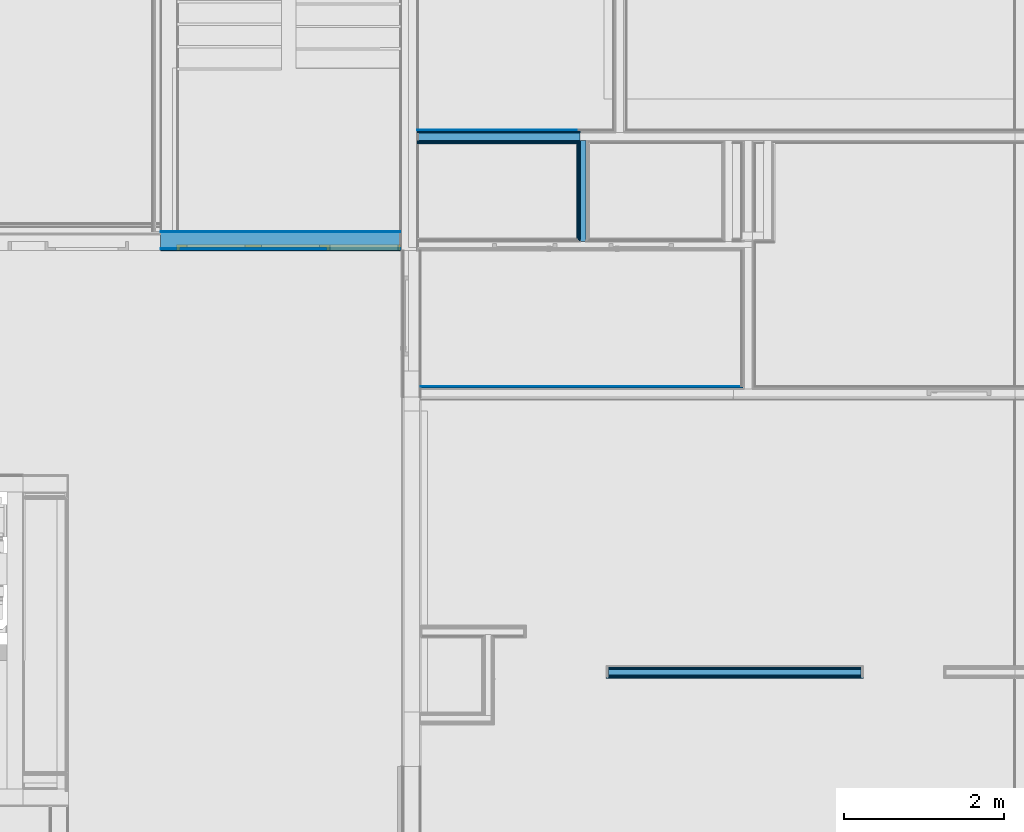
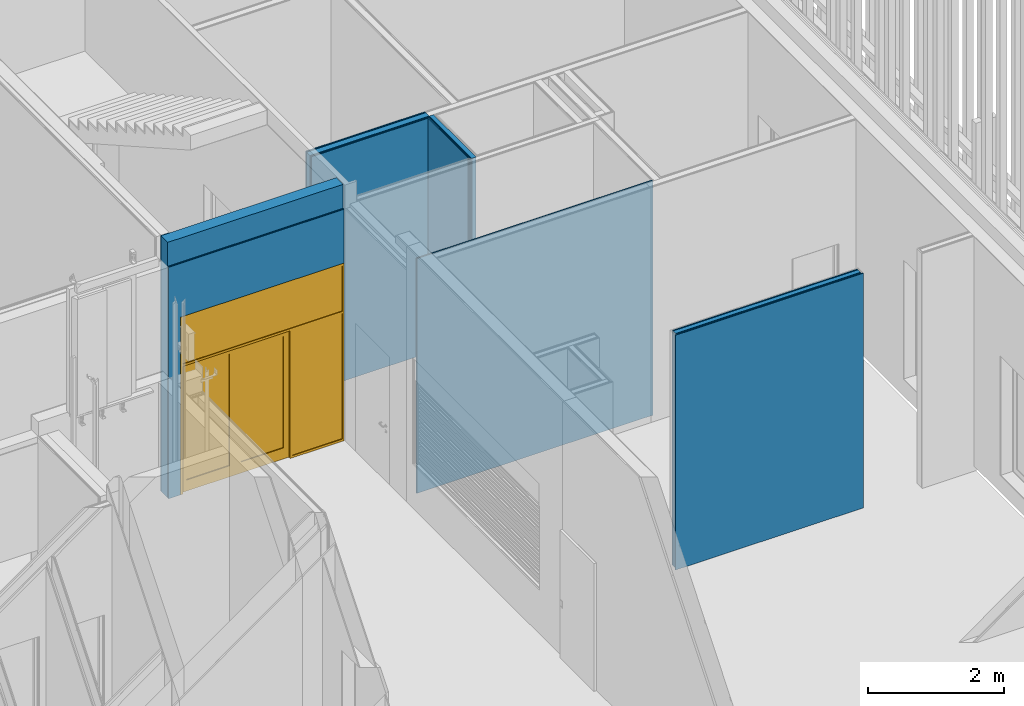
# One storey, part 189 of 260: 23 building element parts, 1 door, 3 openings, 5 elements without a shape of their own.
"""IFC2X3 building model written with IfcOpenShell, lengths in millimetres."""

from ifc_helpers import new_model, entity, si_unit, converted_unit, derived_unit, money_unit, direction, frame, origin_with_axes, place, context, subcontext, project, spatial, open_shell, faceted_brep, surface_model, material, type_object, element, fill, aggregate, save


model = new_model("IFC2X3")

# Units and contexts
model_context = context("Model", 3, precision=0.01, world=origin_with_axes(), true_north=direction((0.0, 1.0)))
body_context = subcontext(model_context, "Body", "Model", "MODEL_VIEW")
ifc_project = project(units=[si_unit("LENGTHUNIT", "METRE", prefix="MILLI"), si_unit("AREAUNIT", "SQUARE_METRE"), si_unit("VOLUMEUNIT", "CUBIC_METRE"), converted_unit("PLANEANGLEUNIT", "DEGREE", entity("IfcPlaneAngleMeasure", 0.0174532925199), si_unit("PLANEANGLEUNIT", "RADIAN"), dimensions=[0, 0, 0, 0, 0, 0, 0]), money_unit("EUR"), converted_unit("TIMEUNIT", "Year", entity("IfcTimeMeasure", 31556926.0), si_unit("TIMEUNIT", "SECOND"), dimensions=[0, 0, 1, 0, 0, 0, 0]), si_unit("MASSUNIT", "GRAM", prefix="KILO"), si_unit("THERMODYNAMICTEMPERATUREUNIT", "DEGREE_CELSIUS"), si_unit("LUMINOUSINTENSITYUNIT", "LUMEN"), si_unit("ENERGYUNIT", "JOULE", prefix="MEGA"), derived_unit("THERMALCONDUCTANCEUNIT", [(si_unit("POWERUNIT", "WATT"), 1), (si_unit("LENGTHUNIT", "METRE"), -1), (si_unit("THERMODYNAMICTEMPERATUREUNIT", "KELVIN"), -1)]), derived_unit("SPECIFICHEATCAPACITYUNIT", [(si_unit("ENERGYUNIT", "JOULE"), 1), (si_unit("MASSUNIT", "GRAM", prefix="KILO"), -1), (si_unit("THERMODYNAMICTEMPERATUREUNIT", "KELVIN"), -1)]), derived_unit("MASSDENSITYUNIT", [(si_unit("MASSUNIT", "GRAM", prefix="KILO"), 1), (si_unit("VOLUMEUNIT", "CUBIC_METRE"), -1)])], contexts=[model_context])

# Site, building, storey
site_placement = place(None, origin_with_axes())
site = spatial("IfcSite", under=ifc_project, at=site_placement, Name="Kolde pst 67a", CompositionType="ELEMENT")
building_placement = place(site_placement, origin_with_axes())
building = spatial("IfcBuilding", under=site, at=building_placement, Name="Riigigümnaasium", CompositionType="ELEMENT")
storey_placement = place(building_placement, origin_with_axes())
storey = spatial("IfcBuildingStorey", under=building, at=storey_placement, Name="1. korrus", CompositionType="ELEMENT", Elevation=0.0)

# Door
door_style = type_object("IfcDoorStyle", Name="Double Door with Sidelight, Transom 25", ConstructionType="NOTDEFINED", OperationType="USERDEFINED", ParameterTakesPrecedence=False, Sizeable=False)
wall_4_placement = place(storey_placement, frame((49590.0100555, 52820.0001843, 0.0), z_axis=(0.0, 0.0, 1.0), x_axis=(1.0, 0.0, 0.0)))
opening_1_placement = place(wall_4_placement, frame((1600.0, 0.0, 0.0), z_axis=(0.0, 0.0, 1.0), x_axis=(1.0, 0.0, 0.0)))
door_placement = place(opening_1_placement, frame((-1400.0, 0.0, 0.0), z_axis=(0.0, 0.0, 1.0), x_axis=(1.0, 0.0, 0.0)))
door = element("IfcDoor", 1, at=door_placement, inside=storey, type_object=door_style, Name="Kahepoolne siseuks", ObjectType="DOOR", OverallHeight=3200.0, OverallWidth=2800.0, context=body_context, shape_type="SurfaceModel", body=[
    faceted_brep([(2789.98406667, -240.0, 3160.0), (2789.98406667, -160.0, 3160.0), (2760.0, -160.0, 3160.0), (2760.0, -240.0, 3160.0), (2789.98406667, -160.0, 0.0), (2789.98406667, -240.0, 0.0), (2760.0, -160.0, 0.0), (2760.0, -160.0, 40.0), (2760.0, -160.0, 2300.0), (2760.0, -160.0, 2340.0), (2760.0, -240.0, 2340.0), (2760.0, -240.0, 2300.0), (2760.0, -240.0, 40.0), (2760.0, -240.0, 0.0)], [[[0, 1, 2, 3]], [[4, 1, 0, 5]], [[1, 4, 6, 7, 8, 9, 2]], [[2, 9, 10, 3]], [[5, 0, 3, 10, 11, 12, 13]], [[4, 5, 13, 6]], [[7, 6, 13, 12]], [[9, 8, 7, 12, 11, 10]]]),
    faceted_brep([(2789.98406667, -240.0, 3200.0), (2789.98406667, -160.0, 3200.0), (0.0, -160.0, 3200.0), (0.0, -240.0, 3200.0), (2789.98406667, -160.0, 3160.0), (2789.98406667, -240.0, 3160.0), (2760.0, -160.0, 3160.0), (40.0, -160.0, 3160.0), (0.0, -160.0, 3160.0), (0.0, -240.0, 3160.0), (40.0, -240.0, 3160.0), (2760.0, -240.0, 3160.0)], [[[0, 1, 2, 3]], [[4, 1, 0, 5]], [[1, 4, 6, 7, 8, 2]], [[2, 8, 9, 3]], [[5, 0, 3, 9, 10, 11]], [[4, 5, 11, 6]], [[7, 6, 11, 10]], [[8, 7, 10, 9]]]),
    faceted_brep([(1869.70213136, -200.0, 0.0), (1869.70213136, -240.0, 0.0), (1869.70213136, -240.0, 2300.0), (1869.70213136, -200.0, 2300.0), (1881.70213136, -200.0, 0.0), (1881.70213136, -160.0, 0.0), (1909.70213136, -160.0, 0.0), (1909.70213136, -240.0, 0.0), (1909.70213136, -240.0, 40.0), (1909.70213136, -240.0, 2300.0), (1881.70213136, -200.0, 2300.0), (1909.70213136, -160.0, 2300.0), (1881.70213136, -160.0, 2300.0), (1909.70213136, -160.0, 40.0)], [[[0, 1, 2, 3]], [[4, 5, 6, 7, 1, 0]], [[7, 8, 9, 2, 1]], [[10, 3, 2, 9, 11, 12]], [[10, 4, 0, 3]], [[12, 5, 4, 10]], [[12, 11, 13, 6, 5]], [[6, 13, 8, 7]], [[13, 11, 9, 8]]]),
    faceted_brep([(2760.0, -160.0, 40.0), (2760.0, -240.0, 40.0), (2760.0, -240.0, 0.0), (2760.0, -160.0, 0.0), (1909.70213136, -160.0, 40.0), (1909.70213136, -240.0, 40.0), (1909.70213136, -240.0, 0.0), (1909.70213136, -160.0, 0.0)], [[[0, 1, 2, 3]], [[4, 5, 1, 0]], [[1, 5, 6, 2]], [[3, 2, 6, 7]], [[0, 3, 7, 4]], [[7, 6, 5, 4]]]),
    faceted_brep([(28.0, -160.0, 2312.0), (28.0, -160.0, 0.0), (0.0, -160.0, 0.0), (0.0, -160.0, 3160.0), (40.0, -160.0, 3160.0), (40.0, -160.0, 2340.0), (40.0, -160.0, 2312.0), (28.0, -200.0, 2312.0), (28.0, -200.0, 0.0), (40.0, -200.0, 0.0), (40.0, -240.0, 0.0), (0.0, -240.0, 0.0), (0.0, -240.0, 3160.0), (40.0, -240.0, 3160.0), (40.0, -240.0, 2340.0), (40.0, -200.0, 2312.0), (40.0, -240.0, 2300.0)], [[[0, 1, 2, 3, 4, 5, 6]], [[0, 7, 8, 1]], [[8, 9, 10, 11, 2, 1]], [[3, 2, 11, 12]], [[4, 3, 12, 13]], [[5, 4, 13, 14]], [[15, 6, 5, 14, 16, 10, 9]], [[6, 15, 7, 0]], [[8, 7, 15, 9]], [[14, 13, 12, 11, 10, 16]]]),
    faceted_brep([(40.0, -200.0, 2312.0), (40.0, -200.0, 2300.0), (40.0, -240.0, 2300.0), (40.0, -240.0, 2340.0), (40.0, -160.0, 2340.0), (40.0, -160.0, 2312.0), (1881.70213136, -200.0, 2312.0), (1881.70213136, -200.0, 2300.0), (1869.70213136, -200.0, 2300.0), (1869.70213136, -240.0, 2300.0), (1909.70213136, -240.0, 2300.0), (2760.0, -240.0, 2300.0), (2760.0, -240.0, 2340.0), (2760.0, -160.0, 2340.0), (1881.70213136, -160.0, 2312.0), (2760.0, -160.0, 2300.0), (1909.70213136, -160.0, 2300.0), (1881.70213136, -160.0, 2300.0)], [[[0, 1, 2, 3, 4, 5]], [[0, 6, 7, 8, 1]], [[8, 9, 2, 1]], [[9, 10, 11, 12, 3, 2]], [[13, 4, 3, 12]], [[14, 5, 4, 13, 15, 16, 17]], [[5, 14, 6, 0]], [[17, 7, 6, 14]], [[7, 17, 16, 10, 9, 8]], [[16, 15, 11, 10]], [[15, 13, 12, 11]]]),
    faceted_brep([(28.0, -160.0, 200.0), (128.0, -160.0, 200.0), (128.0, -200.0, 200.0), (28.0, -200.0, 200.0), (28.0, -160.0, 2212.0), (128.0, -160.0, 2212.0), (128.0, -200.0, 2212.0), (28.0, -200.0, 2212.0)], [[[0, 1, 2, 3]], [[0, 4, 5, 1]], [[1, 5, 6, 2]], [[3, 2, 6, 7]], [[4, 0, 3, 7]], [[5, 4, 7, 6]]]),
    faceted_brep([(954.85106568, -160.0, 200.0), (954.85106568, -160.0, 2212.0), (954.85106568, -200.0, 2212.0), (954.85106568, -200.0, 200.0), (854.85106568, -160.0, 200.0), (854.85106568, -160.0, 2212.0), (854.85106568, -200.0, 2212.0), (854.85106568, -200.0, 200.0)], [[[0, 1, 2, 3]], [[0, 4, 5, 1]], [[1, 5, 6, 2]], [[3, 2, 6, 7]], [[4, 0, 3, 7]], [[5, 4, 7, 6]]]),
    faceted_brep([(28.0, -160.0, 0.0), (954.85106568, -160.0, 0.0), (954.85106568, -200.0, 0.0), (28.0, -200.0, 0.0), (28.0, -160.0, 200.0), (128.0, -160.0, 200.0), (854.85106568, -160.0, 200.0), (954.85106568, -160.0, 200.0), (954.85106568, -200.0, 200.0), (854.85106568, -200.0, 200.0), (128.0, -200.0, 200.0), (28.0, -200.0, 200.0)], [[[0, 1, 2, 3]], [[0, 4, 5, 6, 7, 1]], [[1, 7, 8, 2]], [[3, 2, 8, 9, 10, 11]], [[4, 0, 3, 11]], [[5, 4, 11, 10]], [[6, 5, 10, 9]], [[7, 6, 9, 8]]]),
    faceted_brep([(28.0, -160.0, 2312.0), (28.0, -160.0, 2212.0), (28.0, -200.0, 2212.0), (28.0, -200.0, 2312.0), (954.85106568, -160.0, 2312.0), (954.85106568, -160.0, 2212.0), (854.85106568, -160.0, 2212.0), (128.0, -160.0, 2212.0), (128.0, -200.0, 2212.0), (854.85106568, -200.0, 2212.0), (954.85106568, -200.0, 2212.0), (954.85106568, -200.0, 2312.0)], [[[0, 1, 2, 3]], [[0, 4, 5, 6, 7, 1]], [[1, 7, 8, 2]], [[3, 2, 8, 9, 10, 11]], [[4, 0, 3, 11]], [[5, 4, 11, 10]], [[6, 5, 10, 9]], [[7, 6, 9, 8]]]),
    surface_model("IfcShellBasedSurfaceModel", [(128.0, -174.0, 200.0), (128.0, -174.0, 2212.0), (854.85106568, -174.0, 2212.0), (854.85106568, -174.0, 200.0)], [open_shell([[[0, 1, 2, 3]]])]),
    surface_model("IfcShellBasedSurfaceModel", [(128.0, -186.0, 200.0), (854.85106568, -186.0, 200.0), (854.85106568, -186.0, 2212.0), (128.0, -186.0, 2212.0)], [open_shell([[[0, 1, 2, 3]]])]),
    faceted_brep([(1881.70213136, -160.0, 200.0), (1881.70213136, -200.0, 200.0), (1781.70213136, -200.0, 200.0), (1781.70213136, -160.0, 200.0), (1881.70213136, -160.0, 2212.0), (1881.70213136, -200.0, 2212.0), (1781.70213136, -200.0, 2212.0), (1781.70213136, -160.0, 2212.0)], [[[0, 1, 2, 3]], [[4, 5, 1, 0]], [[1, 5, 6, 2]], [[3, 2, 6, 7]], [[0, 3, 7, 4]], [[7, 6, 5, 4]]]),
    faceted_brep([(954.85106568, -160.0, 200.0), (954.85106568, -200.0, 200.0), (954.85106568, -200.0, 2212.0), (954.85106568, -160.0, 2212.0), (1054.85106568, -160.0, 200.0), (1054.85106568, -200.0, 200.0), (1054.85106568, -200.0, 2212.0), (1054.85106568, -160.0, 2212.0)], [[[0, 1, 2, 3]], [[4, 5, 1, 0]], [[1, 5, 6, 2]], [[3, 2, 6, 7]], [[0, 3, 7, 4]], [[7, 6, 5, 4]]]),
    faceted_brep([(1881.70213136, -160.0, 0.0), (1881.70213136, -200.0, 0.0), (954.85106568, -200.0, 0.0), (954.85106568, -160.0, 0.0), (1881.70213136, -160.0, 200.0), (1881.70213136, -200.0, 200.0), (1781.70213136, -200.0, 200.0), (1054.85106568, -200.0, 200.0), (954.85106568, -200.0, 200.0), (954.85106568, -160.0, 200.0), (1054.85106568, -160.0, 200.0), (1781.70213136, -160.0, 200.0)], [[[0, 1, 2, 3]], [[4, 5, 1, 0]], [[1, 5, 6, 7, 8, 2]], [[3, 2, 8, 9]], [[0, 3, 9, 10, 11, 4]], [[11, 6, 5, 4]], [[10, 7, 6, 11]], [[9, 8, 7, 10]]]),
    faceted_brep([(1881.70213136, -160.0, 2312.0), (1881.70213136, -200.0, 2312.0), (1881.70213136, -200.0, 2212.0), (1881.70213136, -160.0, 2212.0), (954.85106568, -160.0, 2312.0), (954.85106568, -200.0, 2312.0), (954.85106568, -200.0, 2212.0), (1054.85106568, -200.0, 2212.0), (1781.70213136, -200.0, 2212.0), (1781.70213136, -160.0, 2212.0), (1054.85106568, -160.0, 2212.0), (954.85106568, -160.0, 2212.0)], [[[0, 1, 2, 3]], [[4, 5, 1, 0]], [[1, 5, 6, 7, 8, 2]], [[3, 2, 8, 9]], [[0, 3, 9, 10, 11, 4]], [[11, 6, 5, 4]], [[10, 7, 6, 11]], [[9, 8, 7, 10]]]),
    surface_model("IfcShellBasedSurfaceModel", [(1781.70213136, -174.0, 200.0), (1054.85106568, -174.0, 200.0), (1054.85106568, -174.0, 2212.0), (1781.70213136, -174.0, 2212.0)], [open_shell([[[0, 1, 2, 3]]])]),
    surface_model("IfcShellBasedSurfaceModel", [(1781.70213136, -186.0, 200.0), (1781.70213136, -186.0, 2212.0), (1054.85106568, -186.0, 2212.0), (1054.85106568, -186.0, 200.0)], [open_shell([[[0, 1, 2, 3]]])]),
    surface_model("IfcShellBasedSurfaceModel", [(2760.0, -216.0, 2340.0), (40.0, -216.0, 2340.0), (40.0, -216.0, 3160.0), (2760.0, -216.0, 3160.0)], [open_shell([[[0, 1, 2, 3]]])]),
    surface_model("IfcShellBasedSurfaceModel", [(2760.0, -228.0, 2340.0), (2760.0, -228.0, 3160.0), (40.0, -228.0, 3160.0), (40.0, -228.0, 2340.0)], [open_shell([[[0, 1, 2, 3]]])]),
    surface_model("IfcShellBasedSurfaceModel", [(2760.0, -216.0, 40.0), (1909.70213136, -216.0, 40.0), (1909.70213136, -216.0, 2300.0), (2760.0, -216.0, 2300.0)], [open_shell([[[0, 1, 2, 3]]])]),
    surface_model("IfcShellBasedSurfaceModel", [(2760.0, -228.0, 40.0), (2760.0, -228.0, 2300.0), (1909.70213136, -228.0, 2300.0), (1909.70213136, -228.0, 40.0)], [open_shell([[[0, 1, 2, 3]]])]),
])

# Wall, building element parts
wall_type_1 = type_object("IfcWallType", Name="SS-PK-10/9_vill100+2värv 170", PredefinedType="NOTDEFINED")
wall_1_placement = place(storey_placement, frame((52829.9941222, 50890.0003787, 0.0), z_axis=(0.0, 0.0, 1.0), x_axis=(1.0, 0.0, 0.0)))
wall_1 = element("IfcWall", 2, at=wall_1_placement, inside=storey, type_object=wall_type_1, Name="Sisesein")
ifc_material_1 = material(Name="_VIIMISTLUSKIHT - viimistlus vastavalt SA osale")
building_element_part_1_placement = place(wall_1_placement, origin_with_axes())
building_element_part_1 = element("IfcBuildingElementPart", 3, at=building_element_part_1_placement, material=ifc_material_1, Name="_VIIMISTLUSKIHT - viimistlus vastavalt SA osale", context=body_context, shape_type="Brep", body=[
    faceted_brep([(4004.9999888, -5.0, 4230.0), (4004.9999888, 0.0, 4230.0), (0.0, 0.0, 4230.0), (0.0, -5.0, 4230.0), (4004.9999888, -5.0, 0.0), (4004.9999888, 0.0, 0.0), (0.0, 0.0, 0.0), (0.0, -5.0, 0.0)], [[[0, 1, 2, 3]], [[1, 0, 4, 5]], [[1, 5, 6, 2]], [[7, 3, 2, 6]], [[4, 0, 3, 7]], [[5, 4, 7, 6]]]),
])
ifc_material_2 = material(Name="_PLAATMATERJAL - tuletõkkekipsplaat, Knauf Red GKF või samaväärne")
building_element_part_2_placement = place(wall_1_placement, origin_with_axes())
building_element_part_2 = element("IfcBuildingElementPart", 4, at=building_element_part_2_placement, material=ifc_material_2, Name="_PLAATMATERJAL - tuletõkkekipsplaat, Knauf Red GKF või samaväärne", context=body_context, shape_type="Brep", body=[
    faceted_brep([(4019.9999888, -20.0, 4230.0), (4019.9999888, -5.0, 4230.0), (0.0, -5.0, 4230.0), (0.0, -20.0, 4230.0), (4019.9999888, -20.0, 0.0), (4019.9999888, -5.0, 0.0), (0.0, -5.0, 0.0), (0.0, -20.0, 0.0)], [[[0, 1, 2, 3]], [[1, 0, 4, 5]], [[1, 5, 6, 2]], [[7, 3, 2, 6]], [[4, 0, 3, 7]], [[5, 4, 7, 6]]]),
])
aggregate(wall_1, [building_element_part_1, building_element_part_2])

wall_type_2 = type_object("IfcWallType", Name="SS-MK-7,5/1_plaaditud 155", PredefinedType="NOTDEFINED")
wall_2_placement = place(storey_placement, frame((54779.9939316, 53918.5000583, 0.0), z_axis=(0.0, 0.0, 1.0), x_axis=(0.0, -1.0, 0.0)))
wall_2 = element("IfcWall", 5, at=wall_2_placement, inside=storey, type_object=wall_type_2, Name="Sisesein")
ifc_material_3 = material(Name="_KARKASS - metallkarkass CW 75/50, mineraalvill karkassi vahel")
building_element_part_3_placement = place(wall_2_placement, origin_with_axes())
building_element_part_3 = element("IfcBuildingElementPart", 6, at=building_element_part_3_placement, material=ifc_material_3, Name="_KARKASS - metallkarkass CW 75/50, mineraalvill karkassi vahel", context=body_context, shape_type="Brep", body=[
    faceted_brep([(1223.49987397, 39.9999996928, 4230.0), (0.0, 39.9999977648, 4230.0), (-35.0, 39.9999977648, 4230.0), (-35.0000000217, 40.0, 0.0), (1223.49987397, 40.0, 0.0), (1223.49987397, 115.000000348, 4230.0), (0.0, 115.000002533, 4230.0), (-35.0, 115.000002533, 4230.0), (-35.0000000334, 115.0, 0.0), (1223.49987397, 115.0, 0.0)], [[[0, 1, 2, 3, 4]], [[5, 6, 7, 2, 1, 0]], [[3, 2, 7, 8]], [[4, 3, 8, 9]], [[5, 0, 4, 9]], [[6, 5, 9, 8, 7]]]),
])
ifc_material_4 = material(Name="_PLAATMATERJAL - kipsplaat veekindel")
building_element_part_4_placement = place(wall_2_placement, origin_with_axes())
building_element_part_4 = element("IfcBuildingElementPart", 7, at=building_element_part_4_placement, material=ifc_material_4, Name="_PLAATMATERJAL - kipsplaat veekindel", context=body_context, shape_type="Brep", body=[
    faceted_brep([(1210.99987397, 27.5, 4230.0), (0.0, 27.5, 4230.0), (-35.0, 27.5, 4230.00000998), (-35.0, 27.5, 0.0), (1210.99987397, 27.5, 0.0), (1210.99987397, 39.9999996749, 4230.0), (0.0, 39.9999977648, 4230.0), (-35.0, 39.9999977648, 4230.00000998), (-35.0, 40.0, 0.0), (1210.99987397, 40.0, 0.0)], [[[0, 1, 2, 3, 4]], [[5, 6, 7, 2, 1, 0]], [[3, 2, 7, 8]], [[4, 3, 8, 9]], [[5, 0, 4, 9]], [[6, 5, 9, 8, 7]]]),
])
building_element_part_5_placement = place(wall_2_placement, origin_with_axes())
building_element_part_5 = element("IfcBuildingElementPart", 8, at=building_element_part_5_placement, material=ifc_material_4, Name="_PLAATMATERJAL - kipsplaat veekindel", context=body_context, shape_type="Brep", body=[
    faceted_brep([(1198.49987397, 14.9999999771, 4230.0), (0.0, 14.999999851, 4230.0), (-22.5, 14.999999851, 4230.00000998), (-22.5, 15.0, 0.0), (1198.49987397, 15.0, 0.0), (1198.49987397, 27.5, 4230.0), (0.0, 27.5, 4230.0), (-22.5, 27.5, 4230.00000998), (-22.5, 27.5, 0.0), (1198.49987397, 27.5, 0.0)], [[[0, 1, 2, 3, 4]], [[5, 6, 7, 2, 1, 0]], [[3, 2, 7, 8]], [[4, 3, 8, 9]], [[5, 0, 4, 9]], [[6, 5, 9, 8, 7]]]),
])
building_element_part_6_placement = place(wall_2_placement, origin_with_axes())
building_element_part_6 = element("IfcBuildingElementPart", 9, at=building_element_part_6_placement, material=ifc_material_1, Name="_VIIMISTLUSKIHT - viimistlus vastavalt SA osale", context=body_context, shape_type="Brep", body=[
    faceted_brep([(1183.49987397, 0.0, 4230.0), (0.0, 0.0, 4230.0), (-10.0, 0.0, 4230.00000998), (-10.0, 0.0, 0.0), (1183.49987397, 0.0, 0.0), (1183.49987397, 14.9999999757, 4230.0), (0.0, 14.999999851, 4230.0), (-10.0, 14.999999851, 4230.00000998), (-10.0, 15.0, 0.0), (1183.49987397, 15.0, 0.0)], [[[0, 1, 2, 3, 4]], [[5, 6, 7, 2, 1, 0]], [[3, 2, 7, 8]], [[4, 3, 8, 9]], [[5, 0, 4, 9]], [[6, 5, 9, 8, 7]]]),
])
aggregate(wall_2, [building_element_part_3, building_element_part_4, building_element_part_5, building_element_part_6])

wall_type_3 = type_object("IfcWallType", Name="SS-PK-10/5_vill100+plaat+värv 175", PredefinedType="NOTDEFINED")
wall_3_placement = place(storey_placement, frame((52789.9941222, 53913.5000583, 0.0), z_axis=(0.0, 0.0, 1.0), x_axis=(1.0, 0.0, 0.0)))
wall_3 = element("IfcWall", 10, at=wall_3_placement, inside=storey, type_object=wall_type_3, Name="Sisesein")
building_element_part_7_placement = place(wall_3_placement, origin_with_axes())
building_element_part_7 = element("IfcBuildingElementPart", 11, at=building_element_part_7_placement, material=ifc_material_1, Name="_VIIMISTLUSKIHT - viimistlus vastavalt SA osale", context=body_context, shape_type="Brep", body=[
    faceted_brep([(1989.99980941, 170.0, 0.0), (0.0, 170.0, 0.0), (0.0, 175.0, 0.0), (1989.99980941, 175.0, 0.0), (1989.99980941, 170.0, 4230.00000998), (0.0, 170.0, 4230.00000998), (0.0, 175.0, 4230.00000998), (1989.99980941, 175.0, 4230.00000998)], [[[0, 1, 2, 3]], [[4, 5, 1, 0]], [[2, 1, 5, 6]], [[3, 2, 6, 7]], [[3, 7, 4, 0]], [[7, 6, 5, 4]]]),
])
building_element_part_8_placement = place(wall_3_placement, origin_with_axes())
building_element_part_8 = element("IfcBuildingElementPart", 12, at=building_element_part_8_placement, material=ifc_material_2, Name="_PLAATMATERJAL - tuletõkkekipsplaat, Knauf Red GKF või samaväärne", context=body_context, shape_type="Brep", body=[
    faceted_brep([(2029.99980941, 155.0, 0.0), (0.0, 155.0, 0.0), (0.0, 170.0, 0.0), (2029.99980941, 170.0, 0.0), (2029.99980941, 155.0, 4230.00000998), (0.0, 155.0, 4230.00000998), (0.0, 170.0, 4230.00000998), (2029.99980941, 170.0, 4230.00000998)], [[[0, 1, 2, 3]], [[4, 5, 1, 0]], [[2, 1, 5, 6]], [[3, 2, 6, 7]], [[3, 7, 4, 0]], [[7, 6, 5, 4]]]),
])
building_element_part_9_placement = place(wall_3_placement, origin_with_axes())
building_element_part_9 = element("IfcBuildingElementPart", 13, at=building_element_part_9_placement, material=ifc_material_2, Name="_PLAATMATERJAL - tuletõkkekipsplaat, Knauf Red GKF või samaväärne", context=body_context, shape_type="Brep", body=[
    faceted_brep([(2029.99980941, 140.0, 0.0), (0.0, 140.0, 0.0), (0.0, 155.0, 0.0), (2029.99980941, 155.0, 0.0), (2029.99980941, 140.0, 4230.00000998), (0.0, 140.0, 4230.00000998), (0.0, 155.0, 4230.00000998), (2029.99980941, 155.0, 4230.00000998)], [[[0, 1, 2, 3]], [[4, 5, 1, 0]], [[2, 1, 5, 6]], [[3, 2, 6, 7]], [[3, 7, 4, 0]], [[7, 6, 5, 4]]]),
])
ifc_material_5 = material(Name="_KARKASS - puitpruss 100x50mm vertikaalne, samm 600mm, vahel mineraalvill, helineeldetegur αw = 1.0, ISOVER ACOUSTIC 100mm või samaväärne")
building_element_part_10_placement = place(wall_3_placement, origin_with_axes())
building_element_part_10 = element("IfcBuildingElementPart", 14, at=building_element_part_10_placement, material=ifc_material_5, Name="_KARKASS - puitpruss 100x50mm vertikaalne, samm 600mm, vahel mineraalvill, helineeldetegur αw = 1.0, ISOVER ACOUSTIC 100mm või samaväärne", context=body_context, shape_type="Brep", body=[
    faceted_brep([(2029.99980941, 40.0, 0.0), (0.0, 40.0, 0.0), (0.0, 140.0, 0.0), (2029.99980941, 140.0, 0.0), (2029.99980941, 40.0, 4230.00000998), (0.0, 40.0, 4230.00000998), (0.0, 140.0, 4230.00000998), (2029.99980941, 140.0, 4230.00000998)], [[[0, 1, 2, 3]], [[4, 5, 1, 0]], [[2, 1, 5, 6]], [[3, 2, 6, 7]], [[3, 7, 4, 0]], [[7, 6, 5, 4]]]),
])
building_element_part_11_placement = place(wall_3_placement, origin_with_axes())
building_element_part_11 = element("IfcBuildingElementPart", 15, at=building_element_part_11_placement, material=ifc_material_4, Name="_PLAATMATERJAL - kipsplaat veekindel", context=body_context, shape_type="Brep", body=[
    faceted_brep([(2017.49980941, 27.5, 0.0), (0.0, 27.5, 0.0), (0.0, 40.0, 0.0), (2017.49980941, 40.0, 0.0), (2017.49980941, 27.5, 4230.00000998), (0.0, 27.5, 4230.00000998), (0.0, 40.0, 4230.00000998), (2017.49980941, 40.0, 4230.00000998)], [[[0, 1, 2, 3]], [[4, 5, 1, 0]], [[2, 1, 5, 6]], [[3, 2, 6, 7]], [[3, 7, 4, 0]], [[7, 6, 5, 4]]]),
])
building_element_part_12_placement = place(wall_3_placement, origin_with_axes())
building_element_part_12 = element("IfcBuildingElementPart", 16, at=building_element_part_12_placement, material=ifc_material_4, Name="_PLAATMATERJAL - kipsplaat veekindel", context=body_context, shape_type="Brep", body=[
    faceted_brep([(2004.99980941, 15.0, 0.0), (0.0, 15.0, 0.0), (0.0, 27.5, 0.0), (2004.99980941, 27.5, 0.0), (2004.99980941, 15.0, 4230.00000998), (0.0, 15.0, 4230.00000998), (0.0, 27.5, 4230.00000998), (2004.99980941, 27.5, 4230.00000998)], [[[0, 1, 2, 3]], [[4, 5, 1, 0]], [[2, 1, 5, 6]], [[3, 2, 6, 7]], [[3, 7, 4, 0]], [[7, 6, 5, 4]]]),
])
building_element_part_13_placement = place(wall_3_placement, origin_with_axes())
building_element_part_13 = element("IfcBuildingElementPart", 17, at=building_element_part_13_placement, material=ifc_material_1, Name="_VIIMISTLUSKIHT - viimistlus vastavalt SA osale", context=body_context, shape_type="Brep", body=[
    faceted_brep([(1989.99980941, 0.0, 0.0), (0.0, 0.0, 0.0), (0.0, 15.0, 0.0), (1989.99980941, 15.0, 0.0), (1989.99980941, 0.0, 4230.00000998), (0.0, 0.0, 4230.00000998), (0.0, 15.0, 4230.00000998), (1989.99980941, 15.0, 4230.00000998)], [[[0, 1, 2, 3]], [[4, 5, 1, 0]], [[2, 1, 5, 6]], [[3, 2, 6, 7]], [[3, 7, 4, 0]], [[7, 6, 5, 4]]]),
])
aggregate(wall_3, [building_element_part_7, building_element_part_8, building_element_part_9, building_element_part_10, building_element_part_11, building_element_part_12, building_element_part_13])

# Wall, opening
wall_type_4 = type_object("IfcWallType", Name="SS-RB-20/3_+krohv+dold 240", PredefinedType="NOTDEFINED")
wall_4 = element("IfcWall", 18, at=wall_4_placement, inside=storey, type_object=wall_type_4, Name="Sisesein")
opening_1 = element("IfcOpeningElement", 19, at=opening_1_placement, cuts=wall_4, Name="Kahepoolne siseuks", context=body_context, shape_type="Brep", body=[
    faceted_brep([(-1400.0, -480.0, 0.0), (-1400.0, -480.0, 3200.0), (-1400.0, 240.0, 3200.0), (-1400.0, 240.0, 0.0), (1400.0, -480.0, 0.0), (1400.0, -480.0, 3200.0), (1400.0, 240.0, 3200.0), (1400.0, 240.0, 0.0)], [[[0, 1, 2, 3]], [[0, 4, 5, 1]], [[1, 5, 6, 2]], [[3, 2, 6, 7]], [[4, 0, 3, 7]], [[5, 4, 7, 6]]]),
])

fill(opening_1, door)

# Building element part
building_element_part_14_placement = place(wall_4_placement, origin_with_axes())
building_element_part_14 = element("IfcBuildingElementPart", 20, at=building_element_part_14_placement, material=ifc_material_1, Name="_VIIMISTLUSKIHT - viimistlus vastavalt SA osale", context=body_context, shape_type="Brep", body=[
    faceted_brep([(149.976616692, 0.0, 4310.0), (2989.98406667, 0.0, 4310.0), (2989.98406667, 0.0, 3200.0), (200.0, 0.0, 3200.0), (200.0, 0.0, 0.0), (0.0, 0.0, 0.0), (0.0, 0.0, 4600.0), (149.976616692, 0.0, 4600.0), (2989.98406667, -10.0000037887, 4310.0), (149.976616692, -10.0000037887, 4310.0), (2989.98406667, -10.0, 3200.0), (200.0, -10.0, 3200.0), (200.0, -10.0, 0.0), (0.0, -10.0, 0.0), (0.0, -10.0, 4600.0), (149.976616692, -10.0000037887, 4600.0)], [[[0, 1, 2, 3, 4, 5, 6, 7]], [[8, 1, 0, 9]], [[1, 8, 10, 2]], [[10, 11, 3, 2]], [[4, 3, 11, 12]], [[4, 12, 13, 5]], [[6, 5, 13, 14]], [[15, 7, 6, 14]], [[9, 0, 7, 15]], [[9, 15, 14, 13, 12, 11, 10, 8]]]),
])

ifc_material_6 = material(Name="_KANDETARIND - monteeritav raudbetoon vastavalt EK osale")
building_element_part_15_placement = place(wall_4_placement, origin_with_axes())
building_element_part_15 = element("IfcBuildingElementPart", 21, at=building_element_part_15_placement, material=ifc_material_6, Name="_KANDETARIND - monteeritav raudbetoon vastavalt EK osale", context=body_context, shape_type="Brep", body=[
    faceted_brep([(0.0, -10.0, 4600.0), (0.0, -210.0, 4600.0), (2989.98406667, -210.0, 4600.0), (2989.98406667, -10.0, 4600.0), (0.0, -10.0, 0.0), (0.0, -210.0, 0.0), (200.0, -210.0, 0.0), (200.0, -210.0, 3200.0), (2989.98406667, -210.0, 3200.0), (2989.98406667, -10.0, 3200.0), (200.0, -10.0, 3200.0), (200.0, -10.0, 0.0)], [[[0, 1, 2, 3]], [[4, 5, 1, 0]], [[6, 7, 8, 2, 1, 5]], [[2, 8, 9, 3]], [[4, 0, 3, 9, 10, 11]], [[6, 5, 4, 11]], [[10, 7, 6, 11]], [[7, 10, 9, 8]]]),
])

ifc_material_7 = material(Name="_KARKASS - eriprofiilkinnitus vastavalt sisemisele plaatviimistlusele")
building_element_part_16_placement = place(wall_4_placement, origin_with_axes())
building_element_part_16 = element("IfcBuildingElementPart", 22, at=building_element_part_16_placement, material=ifc_material_7, Name="_KARKASS - eriprofiilkinnitus vastavalt sisemisele plaatviimistlusele", context=body_context, shape_type="Brep", body=[
    faceted_brep([(1.39621647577e-08, -210.000000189, 4170.0), (2989.98406667, -210.000011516, 4170.0), (2989.98406667, -210.0, 3200.0), (200.0, -210.0, 3200.0), (200.0, -210.0, 0.0), (0.0, -210.0, 0.0), (2989.98406667, -220.0, 4170.0), (8.68993765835e-09, -220.0, 4170.0), (2989.98406667, -220.0, 3200.0), (200.0, -220.0, 3200.0), (200.0, -220.0, 0.0), (0.0, -220.0, 0.0)], [[[0, 1, 2, 3, 4, 5]], [[6, 1, 0, 7]], [[1, 6, 8, 2]], [[3, 2, 8, 9]], [[9, 10, 4, 3]], [[11, 5, 4, 10]], [[7, 0, 5, 11]], [[6, 7, 11, 10, 9, 8]]]),
])

building_element_part_17_placement = place(wall_4_placement, origin_with_axes())
building_element_part_17 = element("IfcBuildingElementPart", 23, at=building_element_part_17_placement, material=ifc_material_1, Name="_VIIMISTLUSKIHT - viimistlus vastavalt SA osale", context=body_context, shape_type="Brep", body=[
    faceted_brep([(8.68993765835e-09, -220.0, 4170.0), (2989.98406667, -220.0, 4170.0), (2989.98406667, -220.0, 3200.0), (200.0, -220.0, 3200.0), (200.0, -220.0, 0.0), (0.0, -220.0, 0.0), (2989.98406667, -240.0, 4170.0), (0.0, -240.0, 4170.0), (2989.98406667, -240.0, 3200.0), (200.0, -240.0, 3200.0), (200.0, -240.0, 0.0), (0.0, -240.0, 0.0)], [[[0, 1, 2, 3, 4, 5]], [[6, 1, 0, 7]], [[1, 6, 8, 2]], [[3, 2, 8, 9]], [[9, 10, 4, 3]], [[11, 5, 4, 10]], [[7, 0, 5, 11]], [[6, 7, 11, 10, 9, 8]]]),
])

aggregate(wall_4, [building_element_part_14, building_element_part_15, building_element_part_16, building_element_part_17])

# Wall, openings, building element parts
wall_5_placement = place(storey_placement, frame((55145.2917812, 47406.5508757, 0.0), z_axis=(0.0, 0.0, 1.0), x_axis=(1.0, 3.13994011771e-09, 0.0)))
wall_5 = element("IfcWall", 24, at=wall_5_placement, inside=storey, type_object=wall_type_2, Name="Sisesein")
opening_2_placement = place(wall_5_placement, origin_with_axes())
element("IfcOpeningElement", 25, at=opening_2_placement, cuts=wall_5, Name="Pale", context=body_context, shape_type="Brep", body=[
    faceted_brep([(15.0000004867, -4.71040428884e-08, 0.0), (4.8669698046e-07, 0.0, 0.0), (4.8669698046e-07, 0.0, 4230.00000998), (15.0000004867, -4.71040428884e-08, 4230.00000998), (15.0000000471, -140.000000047, 0.0), (4.71053552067e-08, -140.0, 0.0), (4.71053552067e-08, -140.0, 4230.00000998), (15.0000000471, -140.000000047, 4230.00000998)], [[[0, 1, 2, 3]], [[0, 4, 5, 1]], [[1, 5, 6, 2]], [[3, 2, 6, 7]], [[4, 0, 3, 7]], [[5, 4, 7, 6]]]),
    faceted_brep([(27.5000004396, -15.0000000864, 0.0), (15.0000004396, -15.0000000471, 0.0), (15.0000004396, -15.0000000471, 4230.00000998), (27.5000004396, -15.0000000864, 4230.00000998), (27.5000000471, -140.000000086, 0.0), (15.0000000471, -140.000000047, 0.0), (15.0000000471, -140.000000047, 4230.00000998), (27.5000000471, -140.000000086, 4230.00000998)], [[[0, 1, 2, 3]], [[0, 4, 5, 1]], [[1, 5, 6, 2]], [[3, 2, 6, 7]], [[4, 0, 3, 7]], [[5, 4, 7, 6]]]),
])
opening_3_placement = place(wall_5_placement, frame((3204.95507918, 0.0, 0.0), z_axis=(0.0, 0.0, 1.0), x_axis=(1.0, 0.0, 0.0)))
element("IfcOpeningElement", 26, at=opening_3_placement, cuts=wall_5, Name="Pale", context=body_context, shape_type="Brep", body=[
    faceted_brep([(-14.9999999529, -140.000010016, 0.0), (4.71053638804e-08, -140.000010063, 0.0), (4.71053638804e-08, -140.000010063, 4230.00000998), (-14.9999999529, -140.000010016, 4230.00000998), (-14.9999995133, -1.00162700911e-05, 0.0), (4.86696971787e-07, -1.00633691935e-05, 0.0), (4.86696971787e-07, -1.00633691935e-05, 4230.00000998), (-14.9999995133, -1.00162700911e-05, 4230.00000998)], [[[0, 1, 2, 3]], [[0, 4, 5, 1]], [[1, 5, 6, 2]], [[3, 2, 6, 7]], [[4, 0, 3, 7]], [[5, 4, 7, 6]]]),
    faceted_brep([(-27.4999999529, -140.000009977, 0.0), (-14.9999999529, -140.000010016, 0.0), (-14.9999999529, -140.000010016, 4230.00000998), (-27.4999999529, -140.000009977, 4230.00000998), (-27.4999995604, -15.000009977, 0.0), (-14.9999995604, -15.0000100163, 0.0), (-14.9999995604, -15.0000100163, 4230.00000998), (-27.4999995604, -15.000009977, 4230.00000998)], [[[0, 1, 2, 3]], [[0, 4, 5, 1]], [[1, 5, 6, 2]], [[3, 2, 6, 7]], [[4, 0, 3, 7]], [[5, 4, 7, 6]]]),
])
building_element_part_18_placement = place(wall_5_placement, origin_with_axes())
building_element_part_18 = element("IfcBuildingElementPart", 27, at=building_element_part_18_placement, material=ifc_material_4, Name="_PLAATMATERJAL - kipsplaat veekindel", context=body_context, shape_type="Brep", body=[
    faceted_brep([(3177.45507958, -27.500009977, 4230.00000998), (3177.45507962, -15.000009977, 4230.00000998), (27.5000004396, -15.0000000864, 4230.00000998), (27.5000004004, -27.5000000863, 4230.00000998), (3177.45507962, -15.000009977, 0.0), (3177.45507958, -27.500009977, 0.0), (27.5000004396, -15.0000000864, 0.0), (27.5000004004, -27.5000000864, 0.0)], [[[0, 1, 2, 3]], [[4, 1, 0, 5]], [[1, 4, 6, 2]], [[6, 7, 3, 2]], [[5, 0, 3, 7]], [[4, 5, 7, 6]]]),
])
building_element_part_19_placement = place(wall_5_placement, origin_with_axes())
building_element_part_19 = element("IfcBuildingElementPart", 28, at=building_element_part_19_placement, material=ifc_material_4, Name="_PLAATMATERJAL - kipsplaat veekindel", context=body_context, shape_type="Brep", body=[
    faceted_brep([(3177.45507954, -40.000009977, 4230.00000998), (3177.45507958, -27.500009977, 4230.00000998), (27.5000004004, -27.5000000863, 4230.00000998), (27.5000003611, -40.0000000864, 4230.00000998), (3177.45507958, -27.500009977, 0.0), (3177.45507954, -40.000009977, 0.0), (27.5000004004, -27.5000000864, 0.0), (27.5000003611, -40.0000000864, 0.0)], [[[0, 1, 2, 3]], [[4, 1, 0, 5]], [[1, 4, 6, 2]], [[6, 7, 3, 2]], [[5, 0, 3, 7]], [[4, 5, 7, 6]]]),
])
building_element_part_20_placement = place(wall_5_placement, origin_with_axes())
building_element_part_20 = element("IfcBuildingElementPart", 29, at=building_element_part_20_placement, material=ifc_material_3, Name="_KARKASS - metallkarkass CW 75/50, mineraalvill karkassi vahel", context=body_context, shape_type="Brep", body=[
    faceted_brep([(3177.4550793, -115.000009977, 4230.00000998), (3177.45507954, -40.000009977, 4230.00000998), (27.5000003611, -40.0000000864, 4230.00000998), (27.5000001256, -115.000000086, 4230.00000998), (3177.45507954, -40.000009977, 0.0), (3177.4550793, -115.000009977, 0.0), (27.5000003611, -40.0000000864, 0.0), (27.5000001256, -115.000000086, 0.0)], [[[0, 1, 2, 3]], [[4, 1, 0, 5]], [[1, 4, 6, 2]], [[6, 7, 3, 2]], [[5, 0, 3, 7]], [[4, 5, 7, 6]]]),
])
building_element_part_21_placement = place(wall_5_placement, origin_with_axes())
building_element_part_21 = element("IfcBuildingElementPart", 30, at=building_element_part_21_placement, material=ifc_material_4, Name="_PLAATMATERJAL - kipsplaat veekindel", context=body_context, shape_type="Brep", body=[
    faceted_brep([(3177.45507927, -127.500009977, 4230.00000998), (3177.4550793, -115.000009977, 4230.00000998), (27.5000001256, -115.000000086, 4230.00000998), (27.5000000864, -127.500000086, 4230.00000998), (3177.4550793, -115.000009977, 0.0), (3177.45507927, -127.500009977, 0.0), (27.5000001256, -115.000000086, 0.0), (27.5000000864, -127.500000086, 0.0)], [[[0, 1, 2, 3]], [[4, 1, 0, 5]], [[1, 4, 6, 2]], [[6, 7, 3, 2]], [[5, 0, 3, 7]], [[4, 5, 7, 6]]]),
])
building_element_part_22_placement = place(wall_5_placement, origin_with_axes())
building_element_part_22 = element("IfcBuildingElementPart", 31, at=building_element_part_22_placement, material=ifc_material_4, Name="_PLAATMATERJAL - kipsplaat veekindel", context=body_context, shape_type="Brep", body=[
    faceted_brep([(3177.45507923, -140.000009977, 4230.00000998), (3177.45507927, -127.500009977, 4230.00000998), (27.5000000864, -127.500000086, 4230.00000998), (27.5000000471, -140.000000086, 4230.00000998), (3177.45507927, -127.500009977, 0.0), (3177.45507923, -140.000009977, 0.0), (27.5000000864, -127.500000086, 0.0), (27.5000000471, -140.000000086, 0.0)], [[[0, 1, 2, 3]], [[4, 1, 0, 5]], [[1, 4, 6, 2]], [[6, 7, 3, 2]], [[5, 0, 3, 7]], [[4, 5, 7, 6]]]),
])
building_element_part_23_placement = place(wall_5_placement, origin_with_axes())
building_element_part_23 = element("IfcBuildingElementPart", 32, at=building_element_part_23_placement, material=ifc_material_1, Name="_VIIMISTLUSKIHT - viimistlus vastavalt SA osale", context=body_context, shape_type="Brep", body=[
    faceted_brep([(3204.95507869, -155.000010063, 4230.00000998), (3204.95507874, -140.000010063, 4230.00000998), (-4.39591474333e-07, -140.0, 4230.00000998), (-4.86686246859e-07, -155.0, 4230.00000998), (3204.95507869, -155.000010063, 0.0), (3204.95507874, -140.000010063, 0.0), (-4.39591474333e-07, -140.0, 0.0), (-4.86686246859e-07, -155.0, 0.0)], [[[0, 1, 2, 3]], [[0, 4, 5, 1]], [[1, 5, 6, 2]], [[3, 2, 6, 7]], [[4, 0, 3, 7]], [[5, 4, 7, 6]]]),
])
aggregate(wall_5, [building_element_part_18, building_element_part_19, building_element_part_20, building_element_part_21, building_element_part_22, building_element_part_23])

save(model, "model.ifc")
